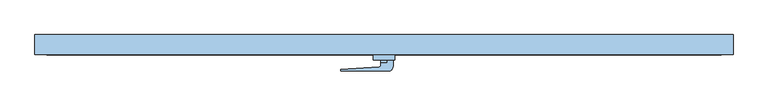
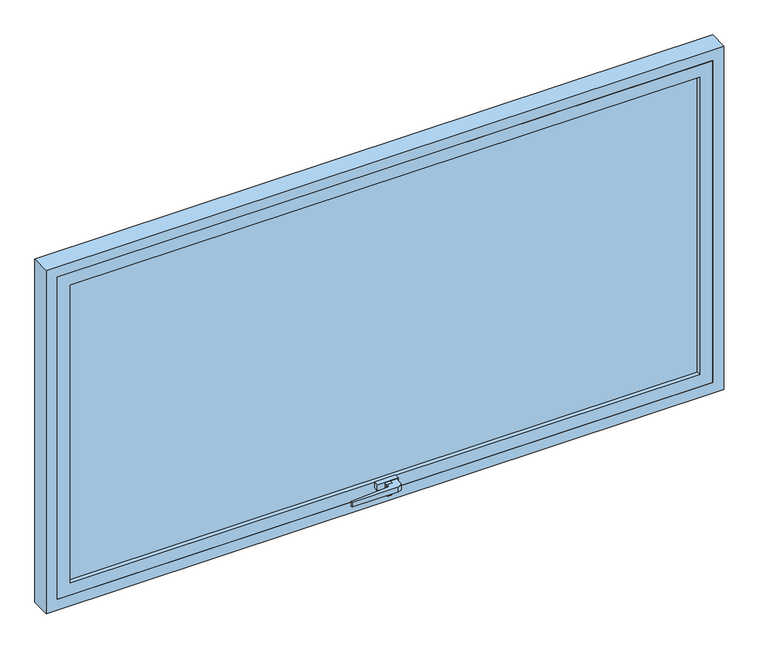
"""IFC4 building model written with IfcOpenShell, lengths in millimetres: window geometry, Janela maxim-ar - 1 Painel : J2 - Janela maxim-ar - 1 Painel."""

from ifc_helpers import new_model, si_unit, point, frame, frame_2d, origin, place, context, project, spatial, polyline, circle_curve, trimmed, segment, composite_curve, outline, extrude, source, transform, mapped, element, save


def window_e701bfd0(model_context):
    return source(origin(), model_context, "Body", "SweptSolid", [
        extrude(outline(composite_curve([segment(polyline([(9.0, -100.0), (9.0, -90.0), (27.0, -90.0), (27.0, -110.0)]), True, "CONTINUOUS"), segment(trimmed(circle_curve(frame_2d((13.0, -110.0)), 14.0), [point((27.0, -110.0))], [point((13.0, -124.0))], False, "CARTESIAN"), True, "CONTINUOUS"), segment(polyline([(13.0, -124.0), (-130.0, -124.0), (-130.0, -119.0), (-14.6705919, -111.9888756)]), True, "CONTINUOUS"), segment(trimmed(circle_curve(frame_2d((-15.0369126, -105.9630874)), 6.0369126), [point((-14.6705919, -111.9888756))], [point((-9.0, -105.9630874))], True, "CARTESIAN"), True, "CONTINUOUS"), segment(polyline([(-9.0, -105.9630874), (-9.0, -100.0), (9.0, -100.0)]), True, "CONTINUOUS")], self_intersect=False)), frame((0.0, 0.0, 707.0), z_axis=(0.0, 0.0, 1.0), x_axis=(1.0, 0.0, 0.0)), (0.0, 0.0, 1.0), 16.0),
        extrude(outline(polyline([(723.0, 9.0), (723.0, -9.0), (703.0135985, -9.0), (685.0, -6.9842809), (685.0, 7.0348924), (703.0135985, 9.0), (723.0, 9.0)])), frame((0.0, -100.0, 0.0), z_axis=(0.0, 1.0, 0.0), x_axis=(0.0, 0.0, 1.0)), (0.0, 0.0, 1.0), 10.0),
        extrude(outline(polyline([(32.0, -90.0), (-32.0, -90.0), (-32.0, -75.0), (32.0, -75.0), (32.0, -90.0)])), frame((0.0, 0.0, 705.0), z_axis=(0.0, 0.0, 1.0), x_axis=(1.0, 0.0, 0.0)), (0.0, 0.0, 1.0), 20.0),
        extrude(outline(polyline([(970.0, -48.0), (970.0, -62.0), (-970.0, -62.0), (-970.0, -48.0), (970.0, -48.0)])), frame((0.0, 0.0, 725.0), z_axis=(0.0, 0.0, 1.0), x_axis=(1.0, 0.0, 0.0)), (0.0, 0.0, 1.0), 970.0),
        extrude(outline(polyline([(685.0, -1010.0), (685.0, 1010.0), (1735.0, 1010.0), (1735.0, -1010.0), (685.0, -1010.0)]), holes=[polyline([(1695.0, -970.0), (1695.0, 970.0), (725.0, 970.0), (725.0, -970.0), (1695.0, -970.0)])]), frame((0.0, -75.0, 0.0), z_axis=(0.0, 1.0, 0.0), x_axis=(0.0, 0.0, 1.0)), (0.0, 0.0, 1.0), 40.0),
        extrude(outline(polyline([(650.0, -1045.0), (650.0, 1045.0), (1770.0, 1045.0), (1770.0, -1045.0), (650.0, -1045.0)]), holes=[polyline([(1735.0, -1010.0), (1735.0, 1010.0), (685.0, 1010.0), (685.0, -1010.0), (1735.0, -1010.0)])]), frame((0.0, -75.0, 0.0), z_axis=(0.0, 1.0, 0.0), x_axis=(0.0, 0.0, 1.0)), (0.0, 0.0, 1.0), 60.0),
    ])


if __name__ == "__main__":
    model = new_model("IFC4")
    model_context = context("Model", 3, world=origin())
    ifc_project = project(units=[si_unit("LENGTHUNIT", "METRE", prefix="MILLI")], contexts=[model_context])
    site = spatial("IfcSite", under=ifc_project)
    building = spatial("IfcBuilding", under=site)
    placement = place(None, origin())
    window_shape = window_e701bfd0(model_context)
    element("IfcWindow", 1, ObjectType="Janela maxim-ar - 1 Painel : J2 - Janela maxim-ar - 1 Painel", at=placement, inside=building, context=model_context, shape_type="MappedRepresentation", body=[
        mapped(window_shape, transform((0.0, 0.0, 0.0), x_axis=(1.0, 0.0, 0.0), y_axis=(0.0, 1.0, 0.0), z_axis=(0.0, 0.0, 1.0))),
    ])
    save(model, "model.ifc")
